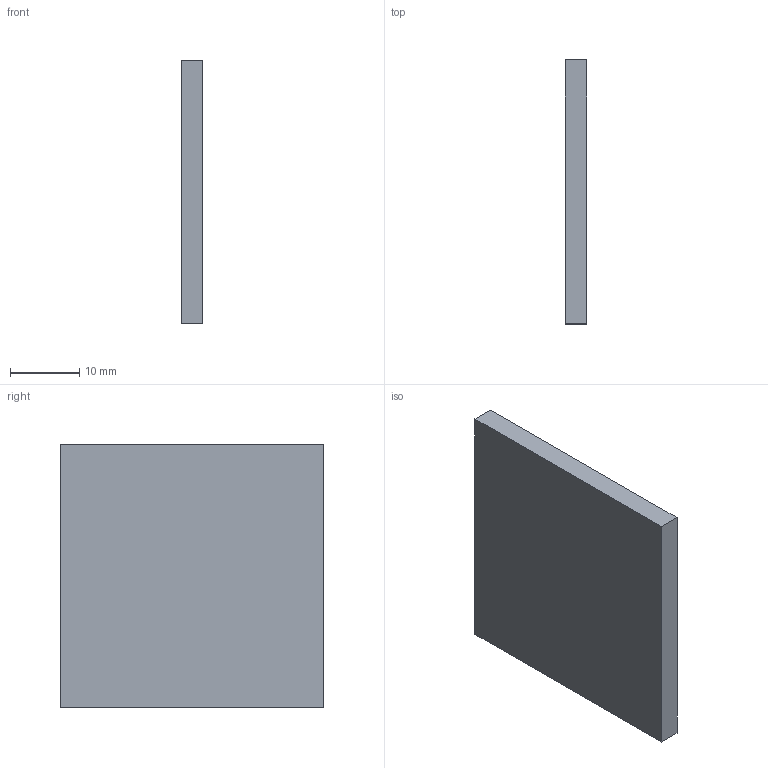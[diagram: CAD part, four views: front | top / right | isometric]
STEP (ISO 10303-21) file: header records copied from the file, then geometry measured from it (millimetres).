
FILE_DESCRIPTION(('FreeCAD Model'),'2;1');
FILE_NAME('/home/jwright/Documents/Mach_30/Shepard_v1.0_CAD/STEP_Files/Shepard_v1.0_Motor_Mount_Contact_Pad_MMB05.step','2012-10-24T08:50:06',( 'FreeCAD'),('FreeCAD'),'Open CASCADE STEP processor 6.5','FreeCAD', 'Unknown');
FILE_SCHEMA(('AUTOMOTIVE_DESIGN_CC2 { 1 2 10303 214 -1 1 5 4 }'));
Length unit declared in the file: millimetre
Products named in the file (1): Box
Bounding box: 3.17 x 38.1 x 38.1 mm (x, y, z)
Volume: 4608.9 mm3; surface area: 3387.1 mm2
Topology: 1 solids, 1 shells, 6 faces, 12 edges, 8 vertices
Faces by surface type: plane 6
Entity records: 333 total; most frequent: CARTESIAN_POINT 51, DIRECTION 50, LINE 36, VECTOR 36, ORIENTED_EDGE 24, PCURVE 24, DEFINITIONAL_REPRESENTATION 24, EDGE_CURVE 12
